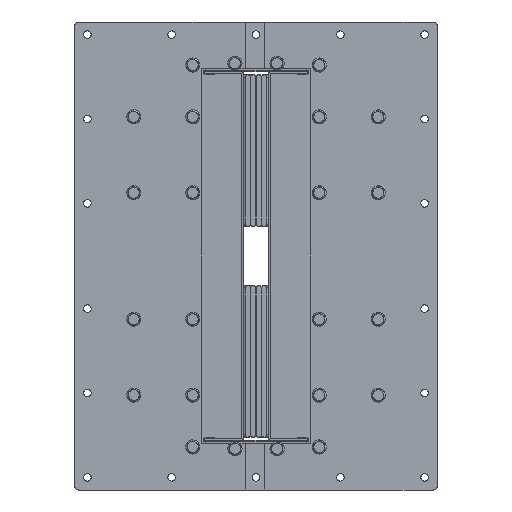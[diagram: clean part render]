
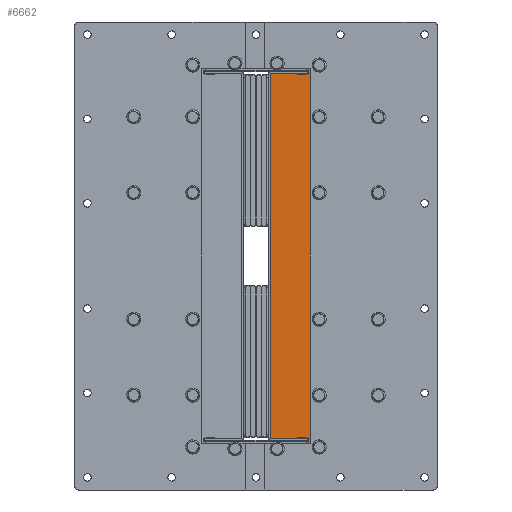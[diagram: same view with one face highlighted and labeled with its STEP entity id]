
A CAD part, left-side view. The second image highlights one B-rep face of the part: STEP entity #6662.
In plain terms, the highlighted planar face has unit normal (-1, 0, 0).
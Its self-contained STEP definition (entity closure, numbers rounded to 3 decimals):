
#5877=AXIS2_PLACEMENT_3D('Plane Axis2P3D',#5874,#5875,#5876) ;
#6011=AXIS2_PLACEMENT_3D('Circle Axis2P3D',#6009,#6010,$) ;
#6073=AXIS2_PLACEMENT_3D('Circle Axis2P3D',#6071,#6072,$) ;
#6342=AXIS2_PLACEMENT_3D('Circle Axis2P3D',#6340,#6341,$) ;
#6390=AXIS2_PLACEMENT_3D('Circle Axis2P3D',#6388,#6389,$) ;
#6556=AXIS2_PLACEMENT_3D('Circle Axis2P3D',#6554,#6555,$) ;
#6565=AXIS2_PLACEMENT_3D('Circle Axis2P3D',#6563,#6564,$) ;
#6574=AXIS2_PLACEMENT_3D('Circle Axis2P3D',#6572,#6573,$) ;
#6583=AXIS2_PLACEMENT_3D('Circle Axis2P3D',#6581,#6582,$) ;
#6592=AXIS2_PLACEMENT_3D('Circle Axis2P3D',#6590,#6591,$) ;
#6601=AXIS2_PLACEMENT_3D('Circle Axis2P3D',#6599,#6600,$) ;
#6610=AXIS2_PLACEMENT_3D('Circle Axis2P3D',#6608,#6609,$) ;
#6619=AXIS2_PLACEMENT_3D('Circle Axis2P3D',#6617,#6618,$) ;
#6628=AXIS2_PLACEMENT_3D('Circle Axis2P3D',#6626,#6627,$) ;
#6637=AXIS2_PLACEMENT_3D('Circle Axis2P3D',#6635,#6636,$) ;
#6646=AXIS2_PLACEMENT_3D('Circle Axis2P3D',#6644,#6645,$) ;
#6655=AXIS2_PLACEMENT_3D('Circle Axis2P3D',#6653,#6654,$) ;
#5874=CARTESIAN_POINT('Axis2P3D Location',(0.,0.,0.)) ;
#5915=CARTESIAN_POINT('Vertex',(0.,-60.,218.5)) ;
#5920=CARTESIAN_POINT('Line Origine',(0.,-60.,229.25)) ;
#5924=CARTESIAN_POINT('Vertex',(0.,-60.,240.)) ;
#5978=CARTESIAN_POINT('Line Origine',(0.,-69.,240.)) ;
#5982=CARTESIAN_POINT('Vertex',(0.,-78.,240.)) ;
#6009=CARTESIAN_POINT('Axis2P3D Location',(0.,-78.,235.)) ;
#6013=CARTESIAN_POINT('Vertex',(0.,-83.,235.)) ;
#6040=CARTESIAN_POINT('Line Origine',(0.,-83.,0.)) ;
#6044=CARTESIAN_POINT('Vertex',(0.,-83.,-235.)) ;
#6071=CARTESIAN_POINT('Axis2P3D Location',(0.,-78.,-235.)) ;
#6075=CARTESIAN_POINT('Vertex',(0.,-78.,-240.)) ;
#6102=CARTESIAN_POINT('Line Origine',(0.,-69.,-240.)) ;
#6106=CARTESIAN_POINT('Vertex',(0.,-60.,-240.)) ;
#6128=CARTESIAN_POINT('Line Origine',(0.,-60.,-229.25)) ;
#6132=CARTESIAN_POINT('Vertex',(0.,-60.,-218.5)) ;
#6167=CARTESIAN_POINT('Vertex',(0.,-60.,217.)) ;
#6170=CARTESIAN_POINT('Line Origine',(0.,-60.,217.75)) ;
#6203=CARTESIAN_POINT('Vertex',(0.,-17.22,217.)) ;
#6206=CARTESIAN_POINT('Line Origine',(0.,-38.61,217.)) ;
#6337=CARTESIAN_POINT('Vertex',(0.,-16.72,216.5)) ;
#6340=CARTESIAN_POINT('Axis2P3D Location',(0.,-17.22,216.5)) ;
#6361=CARTESIAN_POINT('Vertex',(0.,-16.72,-216.5)) ;
#6364=CARTESIAN_POINT('Line Origine',(0.,-16.72,0.)) ;
#6385=CARTESIAN_POINT('Vertex',(0.,-17.22,-217.)) ;
#6388=CARTESIAN_POINT('Axis2P3D Location',(0.,-17.22,-216.5)) ;
#6409=CARTESIAN_POINT('Vertex',(0.,-60.,-217.)) ;
#6412=CARTESIAN_POINT('Line Origine',(0.,-38.61,-217.)) ;
#6429=CARTESIAN_POINT('Line Origine',(0.,-60.,-217.75)) ;
#6554=CARTESIAN_POINT('Axis2P3D Location',(0.,-75.,165.)) ;
#6558=CARTESIAN_POINT('Vertex',(0.,-79.5,165.)) ;
#6560=CARTESIAN_POINT('Vertex',(0.,-70.5,165.)) ;
#6563=CARTESIAN_POINT('Axis2P3D Location',(0.,-75.,165.)) ;
#6572=CARTESIAN_POINT('Axis2P3D Location',(0.,-75.,75.)) ;
#6576=CARTESIAN_POINT('Vertex',(0.,-79.5,75.)) ;
#6578=CARTESIAN_POINT('Vertex',(0.,-70.5,75.)) ;
#6581=CARTESIAN_POINT('Axis2P3D Location',(0.,-75.,75.)) ;
#6590=CARTESIAN_POINT('Axis2P3D Location',(0.,-75.,-75.)) ;
#6594=CARTESIAN_POINT('Vertex',(0.,-79.5,-75.)) ;
#6596=CARTESIAN_POINT('Vertex',(0.,-70.5,-75.)) ;
#6599=CARTESIAN_POINT('Axis2P3D Location',(0.,-75.,-75.)) ;
#6608=CARTESIAN_POINT('Axis2P3D Location',(0.,-75.,-165.)) ;
#6612=CARTESIAN_POINT('Vertex',(0.,-79.5,-165.)) ;
#6614=CARTESIAN_POINT('Vertex',(0.,-70.5,-165.)) ;
#6617=CARTESIAN_POINT('Axis2P3D Location',(0.,-75.,-165.)) ;
#6626=CARTESIAN_POINT('Axis2P3D Location',(0.,-75.,226.5)) ;
#6630=CARTESIAN_POINT('Vertex',(0.,-79.5,226.5)) ;
#6632=CARTESIAN_POINT('Vertex',(0.,-70.5,226.5)) ;
#6635=CARTESIAN_POINT('Axis2P3D Location',(0.,-75.,226.5)) ;
#6644=CARTESIAN_POINT('Axis2P3D Location',(0.,-75.,-226.5)) ;
#6648=CARTESIAN_POINT('Vertex',(0.,-79.5,-226.5)) ;
#6650=CARTESIAN_POINT('Vertex',(0.,-70.5,-226.5)) ;
#6653=CARTESIAN_POINT('Axis2P3D Location',(0.,-75.,-226.5)) ;
#5875=DIRECTION('Axis2P3D Direction',(1.,0.,0.)) ;
#5876=DIRECTION('Axis2P3D XDirection',(0.,1.,0.)) ;
#5921=DIRECTION('Vector Direction',(0.,0.,-1.)) ;
#5979=DIRECTION('Vector Direction',(0.,-1.,0.)) ;
#6010=DIRECTION('Axis2P3D Direction',(1.,0.,0.)) ;
#6041=DIRECTION('Vector Direction',(0.,0.,1.)) ;
#6072=DIRECTION('Axis2P3D Direction',(1.,0.,0.)) ;
#6103=DIRECTION('Vector Direction',(0.,1.,0.)) ;
#6129=DIRECTION('Vector Direction',(0.,0.,-1.)) ;
#6171=DIRECTION('Vector Direction',(0.,0.,-1.)) ;
#6207=DIRECTION('Vector Direction',(0.,1.,0.)) ;
#6341=DIRECTION('Axis2P3D Direction',(1.,0.,0.)) ;
#6365=DIRECTION('Vector Direction',(0.,0.,1.)) ;
#6389=DIRECTION('Axis2P3D Direction',(1.,0.,0.)) ;
#6413=DIRECTION('Vector Direction',(0.,-1.,0.)) ;
#6430=DIRECTION('Vector Direction',(0.,0.,-1.)) ;
#6555=DIRECTION('Axis2P3D Direction',(1.,0.,0.)) ;
#6564=DIRECTION('Axis2P3D Direction',(1.,0.,0.)) ;
#6573=DIRECTION('Axis2P3D Direction',(1.,0.,0.)) ;
#6582=DIRECTION('Axis2P3D Direction',(1.,0.,0.)) ;
#6591=DIRECTION('Axis2P3D Direction',(1.,0.,0.)) ;
#6600=DIRECTION('Axis2P3D Direction',(1.,0.,0.)) ;
#6609=DIRECTION('Axis2P3D Direction',(1.,0.,0.)) ;
#6618=DIRECTION('Axis2P3D Direction',(1.,0.,0.)) ;
#6627=DIRECTION('Axis2P3D Direction',(1.,0.,0.)) ;
#6636=DIRECTION('Axis2P3D Direction',(1.,0.,0.)) ;
#6645=DIRECTION('Axis2P3D Direction',(1.,0.,0.)) ;
#6654=DIRECTION('Axis2P3D Direction',(1.,0.,0.)) ;
#5922=VECTOR('Line Direction',#5921,1.) ;
#5980=VECTOR('Line Direction',#5979,1.) ;
#6042=VECTOR('Line Direction',#6041,1.) ;
#6104=VECTOR('Line Direction',#6103,1.) ;
#6130=VECTOR('Line Direction',#6129,1.) ;
#6172=VECTOR('Line Direction',#6171,1.) ;
#6208=VECTOR('Line Direction',#6207,1.) ;
#6366=VECTOR('Line Direction',#6365,1.) ;
#6414=VECTOR('Line Direction',#6413,1.) ;
#6431=VECTOR('Line Direction',#6430,1.) ;
#6539=ORIENTED_EDGE('',*,*,#6174,.T.) ;
#6540=ORIENTED_EDGE('',*,*,#6210,.T.) ;
#6541=ORIENTED_EDGE('',*,*,#6344,.T.) ;
#6542=ORIENTED_EDGE('',*,*,#6368,.T.) ;
#6543=ORIENTED_EDGE('',*,*,#6392,.T.) ;
#6544=ORIENTED_EDGE('',*,*,#6416,.T.) ;
#6545=ORIENTED_EDGE('',*,*,#6433,.T.) ;
#6546=ORIENTED_EDGE('',*,*,#6134,.F.) ;
#6547=ORIENTED_EDGE('',*,*,#6108,.F.) ;
#6548=ORIENTED_EDGE('',*,*,#6077,.F.) ;
#6549=ORIENTED_EDGE('',*,*,#6046,.F.) ;
#6550=ORIENTED_EDGE('',*,*,#6015,.F.) ;
#6551=ORIENTED_EDGE('',*,*,#5984,.F.) ;
#6552=ORIENTED_EDGE('',*,*,#5926,.F.) ;
#6569=ORIENTED_EDGE('',*,*,#6562,.T.) ;
#6570=ORIENTED_EDGE('',*,*,#6567,.T.) ;
#6587=ORIENTED_EDGE('',*,*,#6580,.T.) ;
#6588=ORIENTED_EDGE('',*,*,#6585,.T.) ;
#6605=ORIENTED_EDGE('',*,*,#6598,.T.) ;
#6606=ORIENTED_EDGE('',*,*,#6603,.T.) ;
#6623=ORIENTED_EDGE('',*,*,#6616,.T.) ;
#6624=ORIENTED_EDGE('',*,*,#6621,.T.) ;
#6641=ORIENTED_EDGE('',*,*,#6634,.T.) ;
#6642=ORIENTED_EDGE('',*,*,#6639,.T.) ;
#6659=ORIENTED_EDGE('',*,*,#6652,.T.) ;
#6660=ORIENTED_EDGE('',*,*,#6657,.T.) ;
#6571=FACE_BOUND('',#6568,.T.) ;
#6589=FACE_BOUND('',#6586,.T.) ;
#6607=FACE_BOUND('',#6604,.T.) ;
#6625=FACE_BOUND('',#6622,.T.) ;
#6643=FACE_BOUND('',#6640,.T.) ;
#6661=FACE_BOUND('',#6658,.T.) ;
#6662=ADVANCED_FACE('Laterale(L3)',(#6553,#6571,#6589,#6607,#6625,#6643,#6661),#5878,.F.) ;
#6012=CIRCLE('generated circle',#6011,5.) ;
#6074=CIRCLE('generated circle',#6073,5.) ;
#6343=CIRCLE('generated circle',#6342,0.5) ;
#6391=CIRCLE('generated circle',#6390,0.5) ;
#6557=CIRCLE('generated circle',#6556,4.5) ;
#6566=CIRCLE('generated circle',#6565,4.5) ;
#6575=CIRCLE('generated circle',#6574,4.5) ;
#6584=CIRCLE('generated circle',#6583,4.5) ;
#6593=CIRCLE('generated circle',#6592,4.5) ;
#6602=CIRCLE('generated circle',#6601,4.5) ;
#6611=CIRCLE('generated circle',#6610,4.5) ;
#6620=CIRCLE('generated circle',#6619,4.5) ;
#6629=CIRCLE('generated circle',#6628,4.5) ;
#6638=CIRCLE('generated circle',#6637,4.5) ;
#6647=CIRCLE('generated circle',#6646,4.5) ;
#6656=CIRCLE('generated circle',#6655,4.5) ;
#5926=EDGE_CURVE('',#5916,#5925,#5923,.F.) ;
#5984=EDGE_CURVE('',#5925,#5983,#5981,.T.) ;
#6015=EDGE_CURVE('',#5983,#6014,#6012,.T.) ;
#6046=EDGE_CURVE('',#6014,#6045,#6043,.F.) ;
#6077=EDGE_CURVE('',#6045,#6076,#6074,.T.) ;
#6108=EDGE_CURVE('',#6076,#6107,#6105,.T.) ;
#6134=EDGE_CURVE('',#6107,#6133,#6131,.F.) ;
#6174=EDGE_CURVE('',#5916,#6168,#6173,.T.) ;
#6210=EDGE_CURVE('',#6168,#6204,#6209,.T.) ;
#6344=EDGE_CURVE('',#6204,#6338,#6343,.F.) ;
#6368=EDGE_CURVE('',#6338,#6362,#6367,.F.) ;
#6392=EDGE_CURVE('',#6362,#6386,#6391,.F.) ;
#6416=EDGE_CURVE('',#6386,#6410,#6415,.T.) ;
#6433=EDGE_CURVE('',#6410,#6133,#6432,.T.) ;
#6562=EDGE_CURVE('',#6559,#6561,#6557,.T.) ;
#6567=EDGE_CURVE('',#6561,#6559,#6566,.T.) ;
#6580=EDGE_CURVE('',#6577,#6579,#6575,.T.) ;
#6585=EDGE_CURVE('',#6579,#6577,#6584,.T.) ;
#6598=EDGE_CURVE('',#6595,#6597,#6593,.T.) ;
#6603=EDGE_CURVE('',#6597,#6595,#6602,.T.) ;
#6616=EDGE_CURVE('',#6613,#6615,#6611,.T.) ;
#6621=EDGE_CURVE('',#6615,#6613,#6620,.T.) ;
#6634=EDGE_CURVE('',#6631,#6633,#6629,.T.) ;
#6639=EDGE_CURVE('',#6633,#6631,#6638,.T.) ;
#6652=EDGE_CURVE('',#6649,#6651,#6647,.T.) ;
#6657=EDGE_CURVE('',#6651,#6649,#6656,.T.) ;
#6538=EDGE_LOOP('',(#6539,#6540,#6541,#6542,#6543,#6544,#6545,#6546,#6547,#6548,#6549,#6550,#6551,#6552)) ;
#6568=EDGE_LOOP('',(#6569,#6570)) ;
#6586=EDGE_LOOP('',(#6587,#6588)) ;
#6604=EDGE_LOOP('',(#6605,#6606)) ;
#6622=EDGE_LOOP('',(#6623,#6624)) ;
#6640=EDGE_LOOP('',(#6641,#6642)) ;
#6658=EDGE_LOOP('',(#6659,#6660)) ;
#6553=FACE_OUTER_BOUND('',#6538,.T.) ;
#5923=LINE('Line',#5920,#5922) ;
#5981=LINE('Line',#5978,#5980) ;
#6043=LINE('Line',#6040,#6042) ;
#6105=LINE('Line',#6102,#6104) ;
#6131=LINE('Line',#6128,#6130) ;
#6173=LINE('Line',#6170,#6172) ;
#6209=LINE('Line',#6206,#6208) ;
#6367=LINE('Line',#6364,#6366) ;
#6415=LINE('Line',#6412,#6414) ;
#6432=LINE('Line',#6429,#6431) ;
#5878=PLANE('',#5877) ;
#5916=VERTEX_POINT('',#5915) ;
#5925=VERTEX_POINT('',#5924) ;
#5983=VERTEX_POINT('',#5982) ;
#6014=VERTEX_POINT('',#6013) ;
#6045=VERTEX_POINT('',#6044) ;
#6076=VERTEX_POINT('',#6075) ;
#6107=VERTEX_POINT('',#6106) ;
#6133=VERTEX_POINT('',#6132) ;
#6168=VERTEX_POINT('',#6167) ;
#6204=VERTEX_POINT('',#6203) ;
#6338=VERTEX_POINT('',#6337) ;
#6362=VERTEX_POINT('',#6361) ;
#6386=VERTEX_POINT('',#6385) ;
#6410=VERTEX_POINT('',#6409) ;
#6559=VERTEX_POINT('',#6558) ;
#6561=VERTEX_POINT('',#6560) ;
#6577=VERTEX_POINT('',#6576) ;
#6579=VERTEX_POINT('',#6578) ;
#6595=VERTEX_POINT('',#6594) ;
#6597=VERTEX_POINT('',#6596) ;
#6613=VERTEX_POINT('',#6612) ;
#6615=VERTEX_POINT('',#6614) ;
#6631=VERTEX_POINT('',#6630) ;
#6633=VERTEX_POINT('',#6632) ;
#6649=VERTEX_POINT('',#6648) ;
#6651=VERTEX_POINT('',#6650) ;
